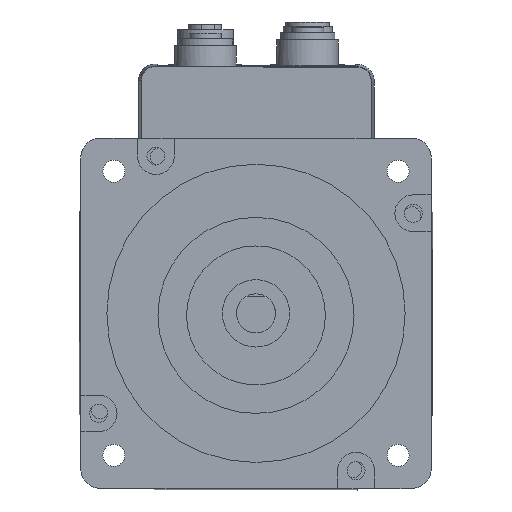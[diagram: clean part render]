
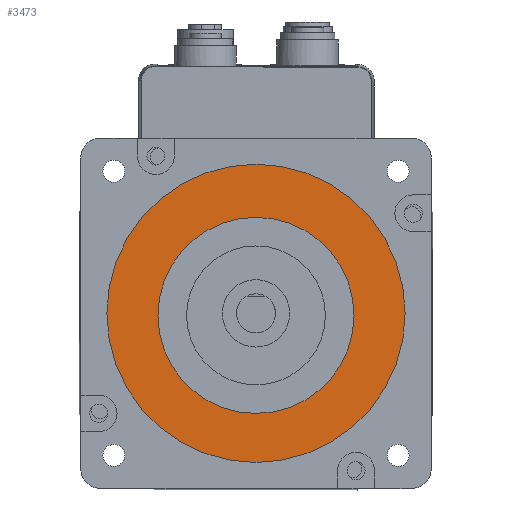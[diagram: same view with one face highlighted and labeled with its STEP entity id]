
A CAD part, front view. The second image highlights one B-rep face of the part: STEP entity #3473.
In plain terms, the highlighted planar face has unit normal (0, -1, 0).
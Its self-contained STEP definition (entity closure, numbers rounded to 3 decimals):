
#3473 = ADVANCED_FACE( '', ( #7516, #7517 ), #7518, .F. );
#7516 = FACE_OUTER_BOUND( '', #12673, .T. );
#7517 = FACE_BOUND( '', #12674, .T. );
#7518 = PLANE( '', #12675 );
#12673 = EDGE_LOOP( '', ( #22899 ) );
#12674 = EDGE_LOOP( '', ( #22900 ) );
#12675 = AXIS2_PLACEMENT_3D( '', #22901, #22902, #22903 );
#22899 = ORIENTED_EDGE( '', *, *, #29015, .F. );
#22900 = ORIENTED_EDGE( '', *, *, #29155, .T. );
#22901 = CARTESIAN_POINT( '', ( 46.966, -2., 64.064 ) );
#22902 = DIRECTION( '', ( 0., 1., 0. ) );
#22903 = DIRECTION( '', ( 1., 0., 0. ) );
#29015 = EDGE_CURVE( '', #35470, #35470, #35471, .T. );
#29155 = EDGE_CURVE( '', #35651, #35651, #35652, .T. );
#35470 = VERTEX_POINT( '', #44352 );
#35471 = CIRCLE( '', #44353, 36.5 );
#35651 = VERTEX_POINT( '', #44579 );
#35652 = CIRCLE( '', #44580, 24. );
#44352 = CARTESIAN_POINT( '', ( 46.966, -2., 100.564 ) );
#44353 = AXIS2_PLACEMENT_3D( '', #50939, #50940, #50941 );
#44579 = CARTESIAN_POINT( '', ( 70.966, -2., 63.564 ) );
#44580 = AXIS2_PLACEMENT_3D( '', #51132, #51133, #51134 );
#50939 = CARTESIAN_POINT( '', ( 46.966, -2., 64.064 ) );
#50940 = DIRECTION( '', ( 0., 1., 0. ) );
#50941 = DIRECTION( '', ( 0., 0., 1. ) );
#51132 = CARTESIAN_POINT( '', ( 46.966, -2., 63.564 ) );
#51133 = DIRECTION( '', ( 0., 1., 0. ) );
#51134 = DIRECTION( '', ( 1., 0., 0. ) );
